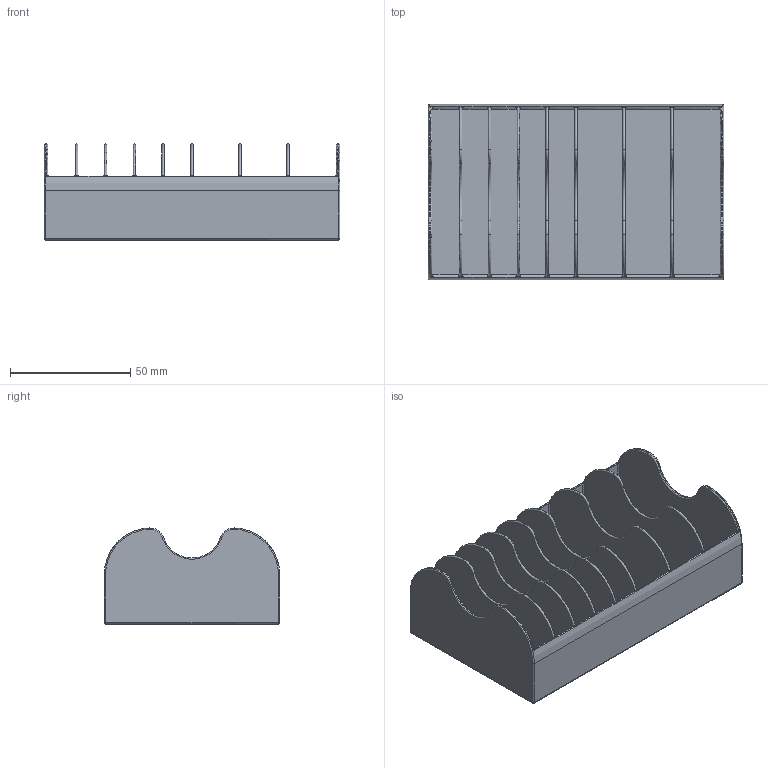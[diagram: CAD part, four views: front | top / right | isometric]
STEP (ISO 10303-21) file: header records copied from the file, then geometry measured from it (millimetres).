
FILE_DESCRIPTION(/* description */ (''),/* implementation_level */ '2;1');
FILE_NAME(/* name */ 'Bakery Organizer.step',/* time_stamp */ '2025-07-11T19:39:55+02:00',/* author */ (''),/* organization */ (''),/* preprocessor_version */ 'ST-DEVELOPER v20.1',/* originating_system */ 'Autodesk Translation Framework v14.10.0.0',/* authorisation */ '');
FILE_SCHEMA (('AUTOMOTIVE_DESIGN { 1 0 10303 214 3 1 1 }'));
Length unit declared in the file: millimetre
Products named in the file (1): 2025-07-11-19-18-00-615
Bounding box: 123 x 73 x 39.99 mm (x, y, z)
Volume: 45370.5 mm3; surface area: 71567 mm2
Topology: 1 solids, 1 shells, 248 faces, 600 edges, 318 vertices
Faces by surface type: torus 87, cylinder 80, plane 45, bspline 36
Entity records: 8572 total; most frequent: CARTESIAN_POINT 3000, DIRECTION 1256, ORIENTED_EDGE 1128, EDGE_CURVE 564, AXIS2_PLACEMENT_3D 543, VERTEX_POINT 318, CIRCLE 290, FACE_OUTER_BOUND 248
